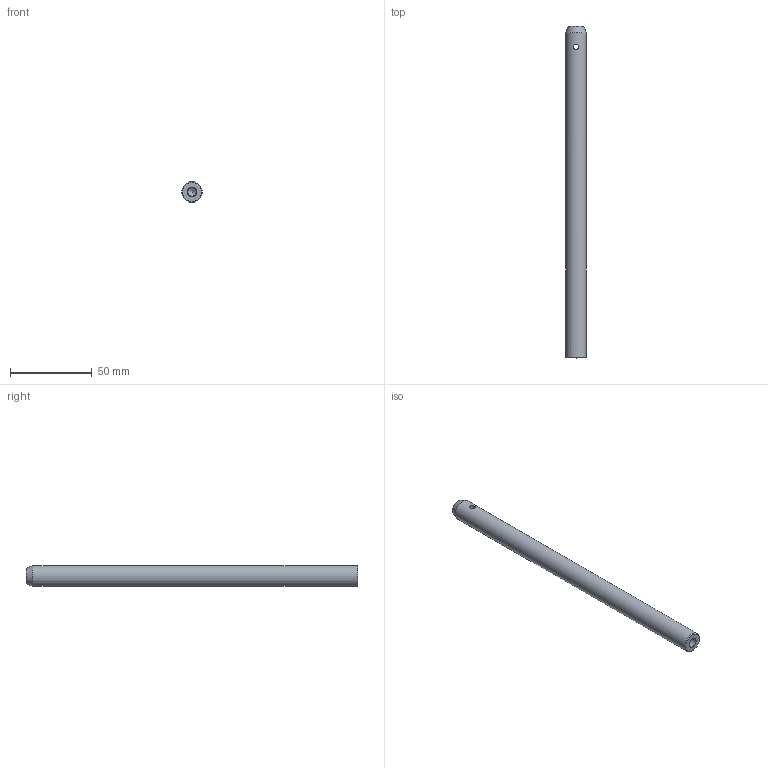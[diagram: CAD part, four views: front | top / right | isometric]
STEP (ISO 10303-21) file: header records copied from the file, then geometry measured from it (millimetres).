
FILE_DESCRIPTION (( 'STEP AP203' ), '1' );
FILE_NAME ('PD-8.step', '2017-01-11T07:22:55', ( '¦K¬P' ), ( '' ), 'SwSTEP 2.0', 'SolidWorks 2012', '' );
FILE_SCHEMA (( 'CONFIG_CONTROL_DESIGN' ));
Length unit declared in the file: millimetre
Products named in the file (1): PD-8
Bounding box: 12.7 x 203.2 x 12.7 mm (x, y, z)
Volume: 25126.5 mm3; surface area: 8700.5 mm2
Topology: 1 solids, 1 shells, 13 faces, 30 edges, 19 vertices
Faces by surface type: cylinder 5, cone 4, plane 3, torus 1
Full cylindrical faces by diameter (mm): 3.3 x2, 5 x1, 6 x1, 12.7 x1
Entity records: 509 total; most frequent: CARTESIAN_POINT 201, DIRECTION 50, EDGE_LOOP 28, ORIENTED_EDGE 28, AXIS2_PLACEMENT_3D 25, FACE_OUTER_BOUND 19, EDGE_CURVE 14, VERTEX_POINT 14
